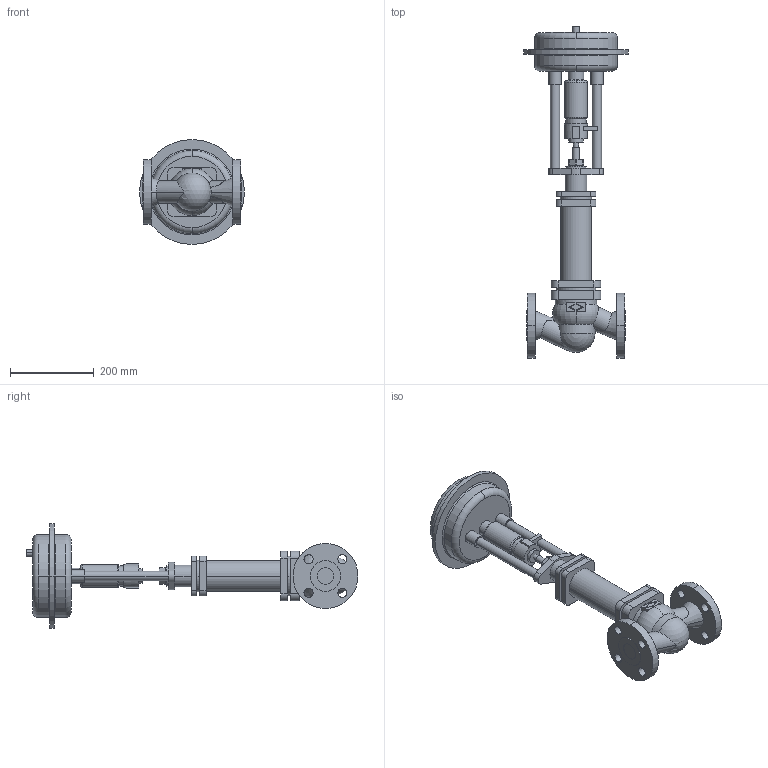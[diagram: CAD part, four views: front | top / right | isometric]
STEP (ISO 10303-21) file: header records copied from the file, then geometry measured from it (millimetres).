
FILE_DESCRIPTION( ( '' ), '1' );
FILE_NAME( 'F:/DE-SHS/TB/OR/04-Sonstiges/daten/files_3d/470-471_ANSI/c000005348.stp', '2014-06-02T05:56:02', ( '' ), ( '' ), ' ', ' ', ' ' );
FILE_SCHEMA( ( 'CONFIG_CONTROL_DESIGN' ) );
Length unit declared in the file: millimetre
Products named in the file (2): 1; 2
Bounding box: 250 x 792 x 250 mm (x, y, z)
Volume: 7189112.4 mm3; surface area: 511788.1 mm2
Topology: 2 solids, 2 shells, 224 faces, 572 edges, 382 vertices
Faces by surface type: cylinder 104, plane 93, torus 18, cone 8, sphere 1
Entity records: 7754 total; most frequent: CARTESIAN_POINT 1944, DIRECTION 1288, ORIENTED_EDGE 1140, EDGE_CURVE 570, AXIS2_PLACEMENT_3D 512, VERTEX_POINT 382, CIRCLE 286, EDGE_LOOP 272
